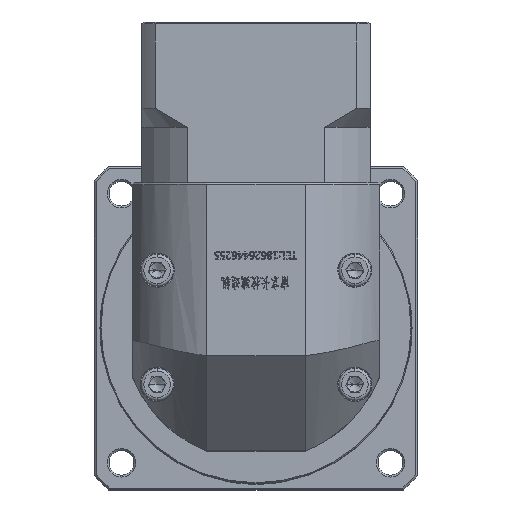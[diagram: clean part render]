
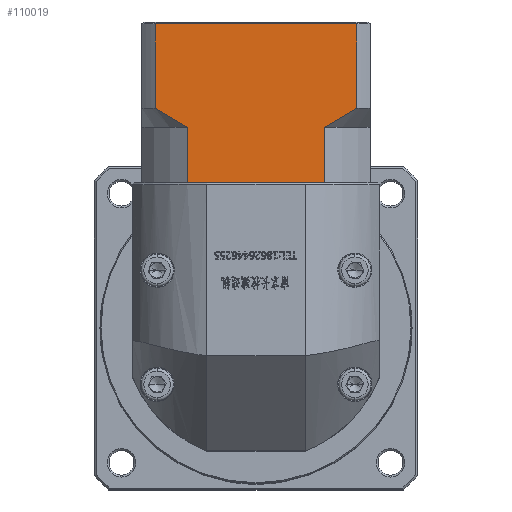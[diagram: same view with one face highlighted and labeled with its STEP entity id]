
A CAD part, top view. The second image highlights one B-rep face of the part: STEP entity #110019.
In plain terms, the highlighted planar face has unit normal (0, 0, 1).
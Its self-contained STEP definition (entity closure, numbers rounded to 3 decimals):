
#3365 = CARTESIAN_POINT ( 'NONE',  ( -126.24, 76.666, 111.858 ) ) ;
#3800 = VERTEX_POINT ( 'NONE', #40172 ) ;
#6005 = CARTESIAN_POINT ( 'NONE',  ( -133.31, 80.766, 111.858 ) ) ;
#6827 = AXIS2_PLACEMENT_3D ( 'NONE', #126148, #47600, #139289 ) ;
#9186 = VECTOR ( 'NONE', #69038, 1000. ) ;
#9205 = EDGE_CURVE ( 'NONE', #36402, #3800, #152569, .T. ) ;
#9508 = VECTOR ( 'NONE', #87522, 1000. ) ;
#13891 = DIRECTION ( 'NONE',  ( 0., -1., 0. ) ) ;
#14175 = CARTESIAN_POINT ( 'NONE',  ( -91.176, 62.166, 111.858 ) ) ;
#16534 = DIRECTION ( 'NONE',  ( 0., 1., 0. ) ) ;
#17103 = CARTESIAN_POINT ( 'NONE',  ( -90.185, 76.666, 111.858 ) ) ;
#22580 = EDGE_CURVE ( 'NONE', #38858, #73799, #76811, .T. ) ;
#25500 = VECTOR ( 'NONE', #16534, 1000. ) ;
#26977 = EDGE_CURVE ( 'NONE', #55166, #102351, #38827, .T. ) ;
#28080 = EDGE_CURVE ( 'NONE', #34596, #142761, #31103, .T. ) ;
#29709 = ORIENTED_EDGE ( 'NONE', *, *, #22580, .F. ) ;
#30286 = CARTESIAN_POINT ( 'NONE',  ( -83.118, 80.764, 111.858 ) ) ;
#31103 = B_SPLINE_CURVE_WITH_KNOTS ( 'NONE', 3,
 ( #17103, #147724, #42913, #108896, #30286, #122050 ),
 .UNSPECIFIED., .F., .F.,
 ( 4, 2, 4 ),
 ( 0.1, 0.104, 0.109 ),
 .UNSPECIFIED. ) ;
#31647 = CARTESIAN_POINT ( 'NONE',  ( -90.185, 76.666, 111.858 ) ) ;
#32377 = CARTESIAN_POINT ( 'NONE',  ( -134.67, 81.666, 111.858 ) ) ;
#34596 = VERTEX_POINT ( 'NONE', #38600 ) ;
#36402 = VERTEX_POINT ( 'NONE', #56850 ) ;
#36811 = ORIENTED_EDGE ( 'NONE', *, *, #84547, .F. ) ;
#37146 = ORIENTED_EDGE ( 'NONE', *, *, #91152, .F. ) ;
#37929 = CARTESIAN_POINT ( 'NONE',  ( -90.185, 62.166, 111.858 ) ) ;
#38600 = CARTESIAN_POINT ( 'NONE',  ( -90.185, 76.666, 111.858 ) ) ;
#38827 = LINE ( 'NONE', #160046, #139347 ) ;
#38858 = VERTEX_POINT ( 'NONE', #79436 ) ;
#40172 = CARTESIAN_POINT ( 'NONE',  ( -125.249, 62.166, 111.858 ) ) ;
#40289 = VECTOR ( 'NONE', #13891, 1000. ) ;
#40752 = CARTESIAN_POINT ( 'NONE',  ( -134.67, 76.666, 111.858 ) ) ;
#42771 = FACE_OUTER_BOUND ( 'NONE', #52686, .T. ) ;
#42913 = CARTESIAN_POINT ( 'NONE',  ( -87.303, 78.216, 111.858 ) ) ;
#47600 = DIRECTION ( 'NONE',  ( 0., 0., -1. ) ) ;
#49279 = ORIENTED_EDGE ( 'NONE', *, *, #26977, .T. ) ;
#52686 = EDGE_LOOP ( 'NONE', ( #131104, #66307, #29709, #118199, #36811, #108108, #56554, #49279, #37146, #64502 ) ) ;
#53033 = VERTEX_POINT ( 'NONE', #108464 ) ;
#55166 = VERTEX_POINT ( 'NONE', #14175 ) ;
#55667 = LINE ( 'NONE', #31647, #125417 ) ;
#56554 = ORIENTED_EDGE ( 'NONE', *, *, #107645, .T. ) ;
#56850 = CARTESIAN_POINT ( 'NONE',  ( -126.24, 62.166, 111.858 ) ) ;
#59467 = CARTESIAN_POINT ( 'NONE',  ( -138.212, 62.166, 111.858 ) ) ;
#61297 = CARTESIAN_POINT ( 'NONE',  ( -81.755, 103.866, 111.858 ) ) ;
#64502 = ORIENTED_EDGE ( 'NONE', *, *, #28080, .T. ) ;
#66307 = ORIENTED_EDGE ( 'NONE', *, *, #164622, .T. ) ;
#67746 = DIRECTION ( 'NONE',  ( 0., 1., 0. ) ) ;
#69038 = DIRECTION ( 'NONE',  ( -1., 0., 0. ) ) ;
#71960 = CARTESIAN_POINT ( 'NONE',  ( -129.124, 78.217, 111.858 ) ) ;
#73153 = CARTESIAN_POINT ( 'NONE',  ( -138.212, 62.166, 111.858 ) ) ;
#73799 = VERTEX_POINT ( 'NONE', #112246 ) ;
#76811 = LINE ( 'NONE', #40752, #142364 ) ;
#79436 = CARTESIAN_POINT ( 'NONE',  ( -134.67, 81.666, 111.858 ) ) ;
#81641 = VERTEX_POINT ( 'NONE', #61297 ) ;
#82948 = VECTOR ( 'NONE', #125869, 1000. ) ;
#83972 = EDGE_CURVE ( 'NONE', #81641, #142761, #114217, .T. ) ;
#84547 = EDGE_CURVE ( 'NONE', #36402, #53033, #95248, .T. ) ;
#85196 = CARTESIAN_POINT ( 'NONE',  ( -126.24, 76.666, 111.858 ) ) ;
#87522 = DIRECTION ( 'NONE',  ( 1., 0., 0. ) ) ;
#91152 = EDGE_CURVE ( 'NONE', #34596, #102351, #55667, .T. ) ;
#95248 = LINE ( 'NONE', #3365, #25500 ) ;
#102351 = VERTEX_POINT ( 'NONE', #37929 ) ;
#107645 = EDGE_CURVE ( 'NONE', #3800, #55166, #144811, .T. ) ;
#108108 = ORIENTED_EDGE ( 'NONE', *, *, #9205, .T. ) ;
#108464 = CARTESIAN_POINT ( 'NONE',  ( -126.24, 76.666, 111.858 ) ) ;
#108896 = CARTESIAN_POINT ( 'NONE',  ( -84.497, 79.89, 111.858 ) ) ;
#110019 = ADVANCED_FACE ( 'NONE', ( #42771 ), #125588, .F. ) ;
#112246 = CARTESIAN_POINT ( 'NONE',  ( -134.67, 103.866, 111.858 ) ) ;
#114217 = LINE ( 'NONE', #118855, #40289 ) ;
#118199 = ORIENTED_EDGE ( 'NONE', *, *, #147429, .T. ) ;
#118855 = CARTESIAN_POINT ( 'NONE',  ( -81.755, 76.666, 111.858 ) ) ;
#120686 = DIRECTION ( 'NONE',  ( 1., 0., 0. ) ) ;
#122050 = CARTESIAN_POINT ( 'NONE',  ( -81.755, 81.666, 111.858 ) ) ;
#123429 = DIRECTION ( 'NONE',  ( 0., -1., 0. ) ) ;
#125417 = VECTOR ( 'NONE', #123429, 1000. ) ;
#125588 = PLANE ( 'NONE',  #6827 ) ;
#125869 = DIRECTION ( 'NONE',  ( 1., 0., 0. ) ) ;
#126148 = CARTESIAN_POINT ( 'NONE',  ( -138.212, 104.366, 111.858 ) ) ;
#131104 = ORIENTED_EDGE ( 'NONE', *, *, #83972, .F. ) ;
#139289 = DIRECTION ( 'NONE',  ( 0., 1., 0. ) ) ;
#139347 = VECTOR ( 'NONE', #120686, 1000. ) ;
#141297 = CARTESIAN_POINT ( 'NONE',  ( -81.755, 81.666, 111.858 ) ) ;
#142364 = VECTOR ( 'NONE', #67746, 1000. ) ;
#142761 = VERTEX_POINT ( 'NONE', #141297 ) ;
#144499 = LINE ( 'NONE', #159951, #9186 ) ;
#144811 = LINE ( 'NONE', #59467, #9508 ) ;
#147429 = EDGE_CURVE ( 'NONE', #38858, #53033, #168431, .T. ) ;
#147724 = CARTESIAN_POINT ( 'NONE',  ( -88.728, 77.416, 111.858 ) ) ;
#150385 = CARTESIAN_POINT ( 'NONE',  ( -131.931, 79.893, 111.858 ) ) ;
#152569 = LINE ( 'NONE', #73153, #82948 ) ;
#159951 = CARTESIAN_POINT ( 'NONE',  ( -138.212, 103.866, 111.858 ) ) ;
#160046 = CARTESIAN_POINT ( 'NONE',  ( -138.212, 62.166, 111.858 ) ) ;
#163537 = CARTESIAN_POINT ( 'NONE',  ( -127.692, 77.413, 111.858 ) ) ;
#164622 = EDGE_CURVE ( 'NONE', #81641, #73799, #144499, .T. ) ;
#168431 = B_SPLINE_CURVE_WITH_KNOTS ( 'NONE', 3,
 ( #32377, #6005, #150385, #71960, #163537, #85196 ),
 .UNSPECIFIED., .F., .F.,
 ( 4, 2, 4 ),
 ( 0.052, 0.057, 0.062 ),
 .UNSPECIFIED. ) ;
